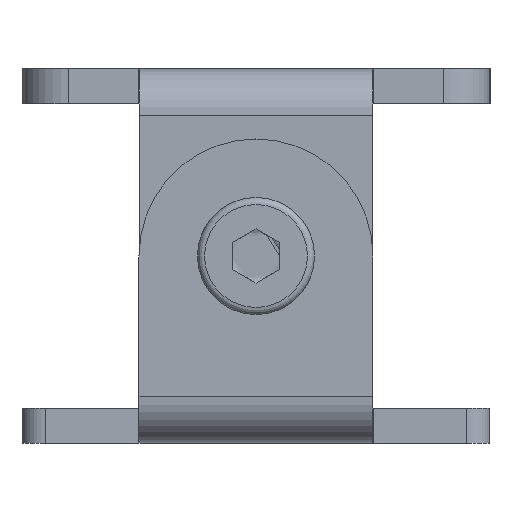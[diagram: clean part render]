
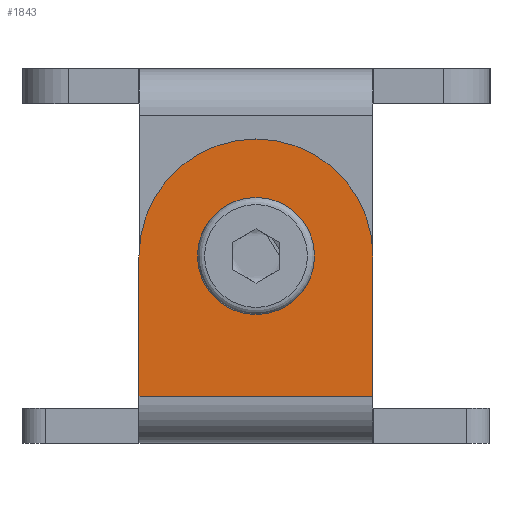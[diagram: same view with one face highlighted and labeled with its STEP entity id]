
A CAD part, left-side view. The second image highlights one B-rep face of the part: STEP entity #1843.
In plain terms, the highlighted planar face has unit normal (-1, 0, 0).
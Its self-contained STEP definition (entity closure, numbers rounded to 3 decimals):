
#97=FACE_BOUND('',#342,.T.);
#137=PLANE('',#2083);
#228=FACE_OUTER_BOUND('',#341,.T.);
#341=EDGE_LOOP('',(#1503,#1504,#1505,#1506));
#342=EDGE_LOOP('',(#1507));
#475=LINE('',#2981,#651);
#486=LINE('',#3008,#662);
#491=LINE('',#3024,#667);
#651=VECTOR('',#2439,2.32);
#662=VECTOR('',#2464,10.);
#667=VECTOR('',#2483,10.);
#787=CIRCLE('',#2063,3.25);
#789=CIRCLE('',#2067,10.);
#894=VERTEX_POINT('',#2961);
#899=VERTEX_POINT('',#2974);
#900=VERTEX_POINT('',#2975);
#901=VERTEX_POINT('',#2980);
#910=VERTEX_POINT('',#3007);
#1100=EDGE_CURVE('',#894,#894,#787,.T.);
#1105=EDGE_CURVE('',#899,#900,#789,.T.);
#1108=EDGE_CURVE('',#900,#901,#475,.T.);
#1121=EDGE_CURVE('',#910,#901,#486,.T.);
#1130=EDGE_CURVE('',#910,#899,#491,.T.);
#1503=ORIENTED_EDGE('',*,*,#1105,.F.);
#1504=ORIENTED_EDGE('',*,*,#1130,.F.);
#1505=ORIENTED_EDGE('',*,*,#1121,.T.);
#1506=ORIENTED_EDGE('',*,*,#1108,.F.);
#1507=ORIENTED_EDGE('',*,*,#1100,.T.);
#1843=ADVANCED_FACE('',(#228,#97),#137,.F.);
#2063=AXIS2_PLACEMENT_3D('',#2963,#2422,#2423);
#2067=AXIS2_PLACEMENT_3D('',#2976,#2433,#2434);
#2083=AXIS2_PLACEMENT_3D('',#3025,#2484,#2485);
#2422=DIRECTION('center_axis',(1.,0.,0.));
#2423=DIRECTION('ref_axis',(0.,0.,-1.));
#2433=DIRECTION('center_axis',(1.,0.,0.));
#2434=DIRECTION('ref_axis',(0.,-0.707,0.707));
#2439=DIRECTION('',(0.,0.,-1.));
#2464=DIRECTION('',(0.,-1.,0.));
#2483=DIRECTION('',(0.,0.,1.));
#2484=DIRECTION('center_axis',(1.,0.,0.));
#2485=DIRECTION('ref_axis',(0.,0.,
-1.));
#2961=CARTESIAN_POINT('',(-385.,0.,19.25));
#2963=CARTESIAN_POINT('Origin',(-385.,0.,16.));
#2974=CARTESIAN_POINT('',(-385.,10.,16.));
#2975=CARTESIAN_POINT('',(-385.,-10.,16.));
#2976=CARTESIAN_POINT('Origin',(-385.,0.,16.));
#2980=CARTESIAN_POINT('',(-385.,-10.,4.));
#2981=CARTESIAN_POINT('',(-385.,-10.,-3.288));
#3007=CARTESIAN_POINT('',(-385.,10.,4.));
#3008=CARTESIAN_POINT('',(-385.,0.,4.));
#3024=CARTESIAN_POINT('',(-385.,10.,4.));
#3025=CARTESIAN_POINT('Origin',(-385.,0.,13.178));
